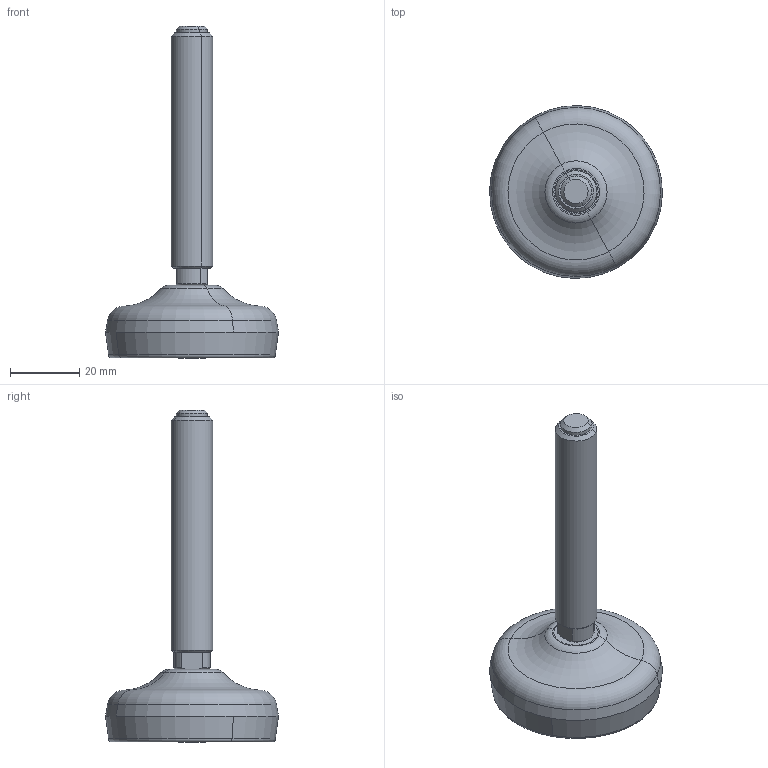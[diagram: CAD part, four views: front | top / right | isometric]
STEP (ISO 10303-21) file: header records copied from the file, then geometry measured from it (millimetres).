
FILE_DESCRIPTION(('CATIA V5 STEP Exchange'),'2;1');
FILE_NAME('C:\Users\dentellad\Desktop\P91902_01.stp','2017-02-23T10:16:04+00:00',('none'),('none'),'Version 5-6 Release 2012','CATIA V5 STEP AP203','none');
FILE_SCHEMA(('CONFIG_CONTROL_DESIGN'));
Length unit declared in the file: millimetre
Products named in the file (1): P91902_01
Assembly tree (3 placements, depth 2):
  P91902_01
    #58
    #1020
    #2146
Bounding box: 49.99 x 49.99 x 96 mm (x, y, z)
Volume: 39331.2 mm3; surface area: 16120.4 mm2
Topology: 4 solids, 4 shells, 101 faces, 206 edges, 124 vertices
Faces by surface type: cone 36, torus 24, plane 23, cylinder 18
Entity records: 2470 total; most frequent: CARTESIAN_POINT 415, ORIENTED_EDGE 412, DIRECTION 340, AXIS2_PLACEMENT_3D 211, EDGE_CURVE 206, CIRCLE 142, VERTEX_POINT 124, EDGE_LOOP 116
